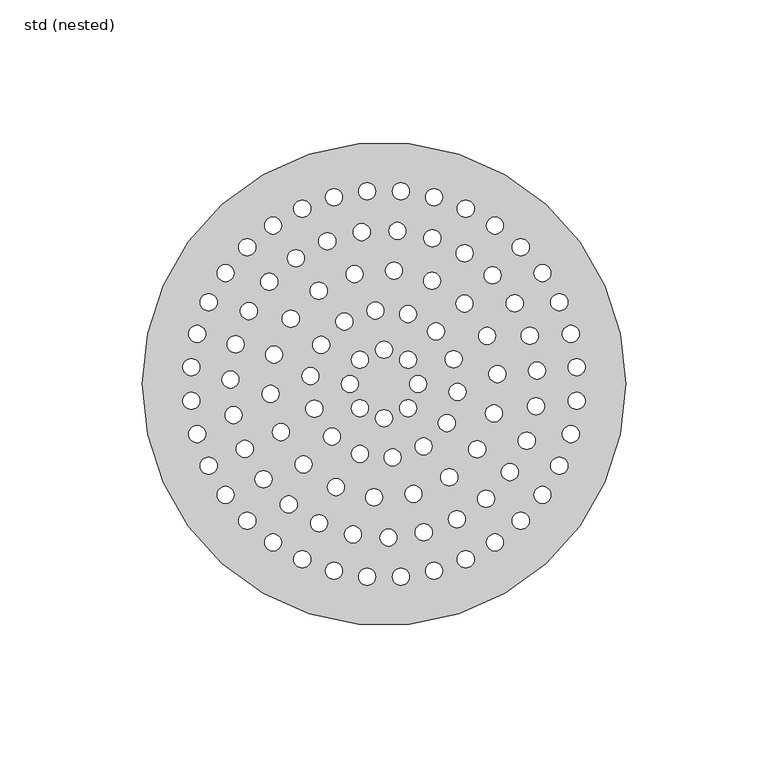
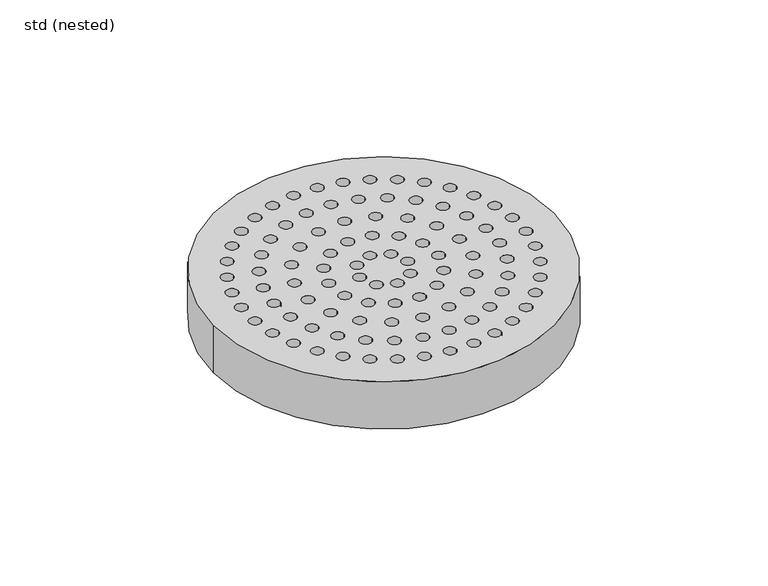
"""IFC4 building model written with IfcOpenShell, lengths in millimetres: sanitary terminal geometry, ZZZ_do not use_PF_ST_UN_round grating for vinyl top_ACO : std (nested)."""

from ifc_helpers import new_model, si_unit, point, frame, frame_2d, origin, origin_2d, place, context, project, spatial, circle_curve, trimmed, segment, composite_curve, outline, extrude, source, transform, mapped, element, save


def std_nested_0eeefa5e(model_context):
    return source(origin(), model_context, "Body", "SweptSolid", [
        extrude(outline(composite_curve([segment(trimmed(circle_curve(origin_2d(), 85.0), [point((-85.0, 0.0))], [point((85.0, 0.0))], False, "CARTESIAN"), True, "CONTINUOUS"), segment(trimmed(circle_curve(origin_2d(), 85.0), [point((85.0, 0.0))], [point((-85.0, 0.0))], False, "CARTESIAN"), True, "CONTINUOUS")], self_intersect=False), holes=[composite_curve([segment(trimmed(circle_curve(frame_2d((17.5996951, 65.6829562)), 3.0), [point((20.5996951, 65.6829562))], [point((14.5996951, 65.6829562))], True, "CARTESIAN"), True, "CONTINUOUS"), segment(trimmed(circle_curve(frame_2d((17.5996951, 65.6829562)), 3.0), [point((14.5996951, 65.6829562))], [point((20.5996951, 65.6829562))], True, "CARTESIAN"), True, "CONTINUOUS")], self_intersect=False), composite_curve([segment(trimmed(circle_curve(frame_2d((28.7380418, 61.6289295)), 3.0), [point((31.7380418, 61.6289295))], [point((25.7380418, 61.6289295))], True, "CARTESIAN"), True, "CONTINUOUS"), segment(trimmed(circle_curve(frame_2d((28.7380418, 61.6289295)), 3.0), [point((25.7380418, 61.6289295))], [point((31.7380418, 61.6289295))], True, "CARTESIAN"), True, "CONTINUOUS")], self_intersect=False), composite_curve([segment(trimmed(circle_curve(frame_2d((39.0031977, 55.702339)), 3.0), [point((42.0031977, 55.702339))], [point((36.0031977, 55.702339))], True, "CARTESIAN"), True, "CONTINUOUS"), segment(trimmed(circle_curve(frame_2d((39.0031977, 55.702339)), 3.0), [point((36.0031977, 55.702339))], [point((42.0031977, 55.702339))], True, "CARTESIAN"), True, "CONTINUOUS")], self_intersect=False), composite_curve([segment(trimmed(circle_curve(frame_2d((48.0832611, 48.0832611)), 3.0), [point((51.0832611, 48.0832611))], [point((45.0832611, 48.0832611))], True, "CARTESIAN"), True, "CONTINUOUS"), segment(trimmed(circle_curve(frame_2d((48.0832611, 48.0832611)), 3.0), [point((45.0832611, 48.0832611))], [point((51.0832611, 48.0832611))], True, "CARTESIAN"), True, "CONTINUOUS")], self_intersect=False), composite_curve([segment(trimmed(circle_curve(frame_2d((55.702339, 39.0031977)), 3.0), [point((58.702339, 39.0031977))], [point((52.702339, 39.0031977))], True, "CARTESIAN"), True, "CONTINUOUS"), segment(trimmed(circle_curve(frame_2d((55.702339, 39.0031977)), 3.0), [point((52.702339, 39.0031977))], [point((58.702339, 39.0031977))], True, "CARTESIAN"), True, "CONTINUOUS")], self_intersect=False), composite_curve([segment(trimmed(circle_curve(frame_2d((61.6289295, 28.7380418)), 3.0), [point((64.6289295, 28.7380418))], [point((58.6289295, 28.7380418))], True, "CARTESIAN"), True, "CONTINUOUS"), segment(trimmed(circle_curve(frame_2d((61.6289295, 28.7380418)), 3.0), [point((58.6289295, 28.7380418))], [point((64.6289295, 28.7380418))], True, "CARTESIAN"), True, "CONTINUOUS")], self_intersect=False), composite_curve([segment(trimmed(circle_curve(frame_2d((65.6829562, 17.5996951)), 3.0), [point((68.6829562, 17.5996951))], [point((62.6829562, 17.5996951))], True, "CARTESIAN"), True, "CONTINUOUS"), segment(trimmed(circle_curve(frame_2d((65.6829562, 17.5996951)), 3.0), [point((62.6829562, 17.5996951))], [point((68.6829562, 17.5996951))], True, "CARTESIAN"), True, "CONTINUOUS")], self_intersect=False), composite_curve([segment(trimmed(circle_curve(frame_2d((67.7412395, 5.9265905)), 3.0), [point((70.7412395, 5.9265905))], [point((64.7412395, 5.9265905))], True, "CARTESIAN"), True, "CONTINUOUS"), segment(trimmed(circle_curve(frame_2d((67.7412395, 5.9265905)), 3.0), [point((64.7412395, 5.9265905))], [point((70.7412395, 5.9265905))], True, "CARTESIAN"), True, "CONTINUOUS")], self_intersect=False), composite_curve([segment(trimmed(circle_curve(frame_2d((67.7412395, -5.9265905)), 3.0), [point((70.7412395, -5.9265905))], [point((64.7412395, -5.9265905))], True, "CARTESIAN"), True, "CONTINUOUS"), segment(trimmed(circle_curve(frame_2d((67.7412395, -5.9265905)), 3.0), [point((64.7412395, -5.9265905))], [point((70.7412395, -5.9265905))], True, "CARTESIAN"), True, "CONTINUOUS")], self_intersect=False), composite_curve([segment(trimmed(circle_curve(frame_2d((65.6829562, -17.5996951)), 3.0), [point((68.6829562, -17.5996951))], [point((62.6829562, -17.5996951))], True, "CARTESIAN"), True, "CONTINUOUS"), segment(trimmed(circle_curve(frame_2d((65.6829562, -17.5996951)), 3.0), [point((62.6829562, -17.5996951))], [point((68.6829562, -17.5996951))], True, "CARTESIAN"), True, "CONTINUOUS")], self_intersect=False), composite_curve([segment(trimmed(circle_curve(frame_2d((61.6289295, -28.7380418)), 3.0), [point((64.6289295, -28.7380418))], [point((58.6289295, -28.7380418))], True, "CARTESIAN"), True, "CONTINUOUS"), segment(trimmed(circle_curve(frame_2d((61.6289295, -28.7380418)), 3.0), [point((58.6289295, -28.7380418))], [point((64.6289295, -28.7380418))], True, "CARTESIAN"), True, "CONTINUOUS")], self_intersect=False), composite_curve([segment(trimmed(circle_curve(frame_2d((55.702339, -39.0031977)), 3.0), [point((58.702339, -39.0031977))], [point((52.702339, -39.0031977))], True, "CARTESIAN"), True, "CONTINUOUS"), segment(trimmed(circle_curve(frame_2d((55.702339, -39.0031977)), 3.0), [point((52.702339, -39.0031977))], [point((58.702339, -39.0031977))], True, "CARTESIAN"), True, "CONTINUOUS")], self_intersect=False), composite_curve([segment(trimmed(circle_curve(frame_2d((48.0832611, -48.0832611)), 3.0), [point((51.0832611, -48.0832611))], [point((45.0832611, -48.0832611))], True, "CARTESIAN"), True, "CONTINUOUS"), segment(trimmed(circle_curve(frame_2d((48.0832611, -48.0832611)), 3.0), [point((45.0832611, -48.0832611))], [point((51.0832611, -48.0832611))], True, "CARTESIAN"), True, "CONTINUOUS")], self_intersect=False), composite_curve([segment(trimmed(circle_curve(frame_2d((39.0031977, -55.702339)), 3.0), [point((42.0031977, -55.702339))], [point((36.0031977, -55.702339))], True, "CARTESIAN"), True, "CONTINUOUS"), segment(trimmed(circle_curve(frame_2d((39.0031977, -55.702339)), 3.0), [point((36.0031977, -55.702339))], [point((42.0031977, -55.702339))], True, "CARTESIAN"), True, "CONTINUOUS")], self_intersect=False), composite_curve([segment(trimmed(circle_curve(frame_2d((28.7380418, -61.6289295)), 3.0), [point((31.7380418, -61.6289295))], [point((25.7380418, -61.6289295))], True, "CARTESIAN"), True, "CONTINUOUS"), segment(trimmed(circle_curve(frame_2d((28.7380418, -61.6289295)), 3.0), [point((25.7380418, -61.6289295))], [point((31.7380418, -61.6289295))], True, "CARTESIAN"), True, "CONTINUOUS")], self_intersect=False), composite_curve([segment(trimmed(circle_curve(frame_2d((17.5996951, -65.6829562)), 3.0), [point((20.5996951, -65.6829562))], [point((14.5996951, -65.6829562))], True, "CARTESIAN"), True, "CONTINUOUS"), segment(trimmed(circle_curve(frame_2d((17.5996951, -65.6829562)), 3.0), [point((14.5996951, -65.6829562))], [point((20.5996951, -65.6829562))], True, "CARTESIAN"), True, "CONTINUOUS")], self_intersect=False), composite_curve([segment(trimmed(circle_curve(frame_2d((5.9265905, -67.7412395)), 3.0), [point((8.9265905, -67.7412395))], [point((2.9265905, -67.7412395))], True, "CARTESIAN"), True, "CONTINUOUS"), segment(trimmed(circle_curve(frame_2d((5.9265905, -67.7412395)), 3.0), [point((2.9265905, -67.7412395))], [point((8.9265905, -67.7412395))], True, "CARTESIAN"), True, "CONTINUOUS")], self_intersect=False), composite_curve([segment(trimmed(circle_curve(frame_2d((-5.9265905, -67.7412395)), 3.0), [point((-2.9265905, -67.7412395))], [point((-8.9265905, -67.7412395))], True, "CARTESIAN"), True, "CONTINUOUS"), segment(trimmed(circle_curve(frame_2d((-5.9265905, -67.7412395)), 3.0), [point((-8.9265905, -67.7412395))], [point((-2.9265905, -67.7412395))], True, "CARTESIAN"), True, "CONTINUOUS")], self_intersect=False), composite_curve([segment(trimmed(circle_curve(frame_2d((-17.5996951, -65.6829562)), 3.0), [point((-14.5996951, -65.6829562))], [point((-20.5996951, -65.6829562))], True, "CARTESIAN"), True, "CONTINUOUS"), segment(trimmed(circle_curve(frame_2d((-17.5996951, -65.6829562)), 3.0), [point((-20.5996951, -65.6829562))], [point((-14.5996951, -65.6829562))], True, "CARTESIAN"), True, "CONTINUOUS")], self_intersect=False), composite_curve([segment(trimmed(circle_curve(frame_2d((-28.7380418, -61.6289295)), 3.0), [point((-25.7380418, -61.6289295))], [point((-31.7380418, -61.6289295))], True, "CARTESIAN"), True, "CONTINUOUS"), segment(trimmed(circle_curve(frame_2d((-28.7380418, -61.6289295)), 3.0), [point((-31.7380418, -61.6289295))], [point((-25.7380418, -61.6289295))], True, "CARTESIAN"), True, "CONTINUOUS")], self_intersect=False), composite_curve([segment(trimmed(circle_curve(frame_2d((-39.0031977, -55.702339)), 3.0), [point((-36.0031977, -55.702339))], [point((-42.0031977, -55.702339))], True, "CARTESIAN"), True, "CONTINUOUS"), segment(trimmed(circle_curve(frame_2d((-39.0031977, -55.702339)), 3.0), [point((-42.0031977, -55.702339))], [point((-36.0031977, -55.702339))], True, "CARTESIAN"), True, "CONTINUOUS")], self_intersect=False), composite_curve([segment(trimmed(circle_curve(frame_2d((-48.0832611, -48.0832611)), 3.0), [point((-45.0832611, -48.0832611))], [point((-51.0832611, -48.0832611))], True, "CARTESIAN"), True, "CONTINUOUS"), segment(trimmed(circle_curve(frame_2d((-48.0832611, -48.0832611)), 3.0), [point((-51.0832611, -48.0832611))], [point((-45.0832611, -48.0832611))], True, "CARTESIAN"), True, "CONTINUOUS")], self_intersect=False), composite_curve([segment(trimmed(circle_curve(frame_2d((-55.702339, -39.0031977)), 3.0), [point((-52.702339, -39.0031977))], [point((-58.702339, -39.0031977))], True, "CARTESIAN"), True, "CONTINUOUS"), segment(trimmed(circle_curve(frame_2d((-55.702339, -39.0031977)), 3.0), [point((-58.702339, -39.0031977))], [point((-52.702339, -39.0031977))], True, "CARTESIAN"), True, "CONTINUOUS")], self_intersect=False), composite_curve([segment(trimmed(circle_curve(frame_2d((-61.6289295, -28.7380418)), 3.0), [point((-58.6289295, -28.7380418))], [point((-64.6289295, -28.7380418))], True, "CARTESIAN"), True, "CONTINUOUS"), segment(trimmed(circle_curve(frame_2d((-61.6289295, -28.7380418)), 3.0), [point((-64.6289295, -28.7380418))], [point((-58.6289295, -28.7380418))], True, "CARTESIAN"), True, "CONTINUOUS")], self_intersect=False), composite_curve([segment(trimmed(circle_curve(frame_2d((-65.6829562, -17.5996951)), 3.0), [point((-62.6829562, -17.5996951))], [point((-68.6829562, -17.5996951))], True, "CARTESIAN"), True, "CONTINUOUS"), segment(trimmed(circle_curve(frame_2d((-65.6829562, -17.5996951)), 3.0), [point((-68.6829562, -17.5996951))], [point((-62.6829562, -17.5996951))], True, "CARTESIAN"), True, "CONTINUOUS")], self_intersect=False), composite_curve([segment(trimmed(circle_curve(frame_2d((-67.7412395, -5.9265905)), 3.0), [point((-64.7412395, -5.9265905))], [point((-70.7412395, -5.9265905))], True, "CARTESIAN"), True, "CONTINUOUS"), segment(trimmed(circle_curve(frame_2d((-67.7412395, -5.9265905)), 3.0), [point((-70.7412395, -5.9265905))], [point((-64.7412395, -5.9265905))], True, "CARTESIAN"), True, "CONTINUOUS")], self_intersect=False), composite_curve([segment(trimmed(circle_curve(frame_2d((-67.7412395, 5.9265905)), 3.0), [point((-64.7412395, 5.9265905))], [point((-70.7412395, 5.9265905))], True, "CARTESIAN"), True, "CONTINUOUS"), segment(trimmed(circle_curve(frame_2d((-67.7412395, 5.9265905)), 3.0), [point((-70.7412395, 5.9265905))], [point((-64.7412395, 5.9265905))], True, "CARTESIAN"), True, "CONTINUOUS")], self_intersect=False), composite_curve([segment(trimmed(circle_curve(frame_2d((-65.6829562, 17.5996951)), 3.0), [point((-62.6829562, 17.5996951))], [point((-68.6829562, 17.5996951))], True, "CARTESIAN"), True, "CONTINUOUS"), segment(trimmed(circle_curve(frame_2d((-65.6829562, 17.5996951)), 3.0), [point((-68.6829562, 17.5996951))], [point((-62.6829562, 17.5996951))], True, "CARTESIAN"), True, "CONTINUOUS")], self_intersect=False), composite_curve([segment(trimmed(circle_curve(frame_2d((-61.6289295, 28.7380418)), 3.0), [point((-58.6289295, 28.7380418))], [point((-64.6289295, 28.7380418))], True, "CARTESIAN"), True, "CONTINUOUS"), segment(trimmed(circle_curve(frame_2d((-61.6289295, 28.7380418)), 3.0), [point((-64.6289295, 28.7380418))], [point((-58.6289295, 28.7380418))], True, "CARTESIAN"), True, "CONTINUOUS")], self_intersect=False), composite_curve([segment(trimmed(circle_curve(frame_2d((-55.702339, 39.0031977)), 3.0), [point((-52.702339, 39.0031977))], [point((-58.702339, 39.0031977))], True, "CARTESIAN"), True, "CONTINUOUS"), segment(trimmed(circle_curve(frame_2d((-55.702339, 39.0031977)), 3.0), [point((-58.702339, 39.0031977))], [point((-52.702339, 39.0031977))], True, "CARTESIAN"), True, "CONTINUOUS")], self_intersect=False), composite_curve([segment(trimmed(circle_curve(frame_2d((-48.0832611, 48.0832611)), 3.0), [point((-45.0832611, 48.0832611))], [point((-51.0832611, 48.0832611))], True, "CARTESIAN"), True, "CONTINUOUS"), segment(trimmed(circle_curve(frame_2d((-48.0832611, 48.0832611)), 3.0), [point((-51.0832611, 48.0832611))], [point((-45.0832611, 48.0832611))], True, "CARTESIAN"), True, "CONTINUOUS")], self_intersect=False), composite_curve([segment(trimmed(circle_curve(frame_2d((-39.0031977, 55.702339)), 3.0), [point((-36.0031977, 55.702339))], [point((-42.0031977, 55.702339))], True, "CARTESIAN"), True, "CONTINUOUS"), segment(trimmed(circle_curve(frame_2d((-39.0031977, 55.702339)), 3.0), [point((-42.0031977, 55.702339))], [point((-36.0031977, 55.702339))], True, "CARTESIAN"), True, "CONTINUOUS")], self_intersect=False), composite_curve([segment(trimmed(circle_curve(frame_2d((-28.7380418, 61.6289295)), 3.0), [point((-25.7380418, 61.6289295))], [point((-31.7380418, 61.6289295))], True, "CARTESIAN"), True, "CONTINUOUS"), segment(trimmed(circle_curve(frame_2d((-28.7380418, 61.6289295)), 3.0), [point((-31.7380418, 61.6289295))], [point((-25.7380418, 61.6289295))], True, "CARTESIAN"), True, "CONTINUOUS")], self_intersect=False), composite_curve([segment(trimmed(circle_curve(frame_2d((-17.5996951, 65.6829562)), 3.0), [point((-14.5996951, 65.6829562))], [point((-20.5996951, 65.6829562))], True, "CARTESIAN"), True, "CONTINUOUS"), segment(trimmed(circle_curve(frame_2d((-17.5996951, 65.6829562)), 3.0), [point((-20.5996951, 65.6829562))], [point((-14.5996951, 65.6829562))], True, "CARTESIAN"), True, "CONTINUOUS")], self_intersect=False), composite_curve([segment(trimmed(circle_curve(frame_2d((-5.9265905, 67.7412395)), 3.0), [point((-2.9265905, 67.7412395))], [point((-8.9265905, 67.7412395))], True, "CARTESIAN"), True, "CONTINUOUS"), segment(trimmed(circle_curve(frame_2d((-5.9265905, 67.7412395)), 3.0), [point((-8.9265905, 67.7412395))], [point((-2.9265905, 67.7412395))], True, "CARTESIAN"), True, "CONTINUOUS")], self_intersect=False), composite_curve([segment(trimmed(circle_curve(frame_2d((16.9854168, 51.2591028)), 3.0), [point((19.9854168, 51.2591028))], [point((13.9854168, 51.2591028))], True, "CARTESIAN"), True, "CONTINUOUS"), segment(trimmed(circle_curve(frame_2d((16.9854168, 51.2591028)), 3.0), [point((13.9854168, 51.2591028))], [point((19.9854168, 51.2591028))], True, "CARTESIAN"), True, "CONTINUOUS")], self_intersect=False), composite_curve([segment(trimmed(circle_curve(frame_2d((28.3487353, 45.9603003)), 3.0), [point((31.3487353, 45.9603003))], [point((25.3487353, 45.9603003))], True, "CARTESIAN"), True, "CONTINUOUS"), segment(trimmed(circle_curve(frame_2d((28.3487353, 45.9603003)), 3.0), [point((25.3487353, 45.9603003))], [point((31.3487353, 45.9603003))], True, "CARTESIAN"), True, "CONTINUOUS")], self_intersect=False), composite_curve([segment(trimmed(circle_curve(frame_2d((38.1837662, 38.1837662)), 3.0), [point((41.1837662, 38.1837662))], [point((35.1837662, 38.1837662))], True, "CARTESIAN"), True, "CONTINUOUS"), segment(trimmed(circle_curve(frame_2d((38.1837662, 38.1837662)), 3.0), [point((35.1837662, 38.1837662))], [point((41.1837662, 38.1837662))], True, "CARTESIAN"), True, "CONTINUOUS")], self_intersect=False), composite_curve([segment(trimmed(circle_curve(frame_2d((45.9603003, 28.3487353)), 3.0), [point((48.9603003, 28.3487353))], [point((42.9603003, 28.3487353))], True, "CARTESIAN"), True, "CONTINUOUS"), segment(trimmed(circle_curve(frame_2d((45.9603003, 28.3487353)), 3.0), [point((42.9603003, 28.3487353))], [point((48.9603003, 28.3487353))], True, "CARTESIAN"), True, "CONTINUOUS")], self_intersect=False), composite_curve([segment(trimmed(circle_curve(frame_2d((51.2591028, 16.9854168)), 3.0), [point((54.2591028, 16.9854168))], [point((48.2591028, 16.9854168))], True, "CARTESIAN"), True, "CONTINUOUS"), segment(trimmed(circle_curve(frame_2d((51.2591028, 16.9854168)), 3.0), [point((48.2591028, 16.9854168))], [point((54.2591028, 16.9854168))], True, "CARTESIAN"), True, "CONTINUOUS")], self_intersect=False), composite_curve([segment(trimmed(circle_curve(frame_2d((53.7945137, 4.7064101)), 3.0), [point((56.7945137, 4.7064101))], [point((50.7945137, 4.7064101))], True, "CARTESIAN"), True, "CONTINUOUS"), segment(trimmed(circle_curve(frame_2d((53.7945137, 4.7064101)), 3.0), [point((50.7945137, 4.7064101))], [point((56.7945137, 4.7064101))], True, "CARTESIAN"), True, "CONTINUOUS")], self_intersect=False), composite_curve([segment(trimmed(circle_curve(frame_2d((53.4298485, -7.8263204)), 3.0), [point((56.4298485, -7.8263204))], [point((50.4298485, -7.8263204))], True, "CARTESIAN"), True, "CONTINUOUS"), segment(trimmed(circle_curve(frame_2d((53.4298485, -7.8263204)), 3.0), [point((50.4298485, -7.8263204))], [point((56.4298485, -7.8263204))], True, "CARTESIAN"), True, "CONTINUOUS")], self_intersect=False), composite_curve([segment(trimmed(circle_curve(frame_2d((50.1847663, -19.937132)), 3.0), [point((53.1847663, -19.937132))], [point((47.1847663, -19.937132))], True, "CARTESIAN"), True, "CONTINUOUS"), segment(trimmed(circle_curve(frame_2d((50.1847663, -19.937132)), 3.0), [point((47.1847663, -19.937132))], [point((53.1847663, -19.937132))], True, "CARTESIAN"), True, "CONTINUOUS")], self_intersect=False), composite_curve([segment(trimmed(circle_curve(frame_2d((44.2342104, -30.9731276)), 3.0), [point((47.2342104, -30.9731276))], [point((41.2342104, -30.9731276))], True, "CARTESIAN"), True, "CONTINUOUS"), segment(trimmed(circle_curve(frame_2d((44.2342104, -30.9731276)), 3.0), [point((41.2342104, -30.9731276))], [point((47.2342104, -30.9731276))], True, "CARTESIAN"), True, "CONTINUOUS")], self_intersect=False), composite_curve([segment(trimmed(circle_curve(frame_2d((35.8989767, -40.3393538)), 3.0), [point((38.8989767, -40.3393538))], [point((32.8989767, -40.3393538))], True, "CARTESIAN"), True, "CONTINUOUS"), segment(trimmed(circle_curve(frame_2d((35.8989767, -40.3393538)), 3.0), [point((32.8989767, -40.3393538))], [point((38.8989767, -40.3393538))], True, "CARTESIAN"), True, "CONTINUOUS")], self_intersect=False), composite_curve([segment(trimmed(circle_curve(frame_2d((25.62842, -47.5308751)), 3.0), [point((28.62842, -47.5308751))], [point((22.62842, -47.5308751))], True, "CARTESIAN"), True, "CONTINUOUS"), segment(trimmed(circle_curve(frame_2d((25.62842, -47.5308751)), 3.0), [point((22.62842, -47.5308751))], [point((28.62842, -47.5308751))], True, "CARTESIAN"), True, "CONTINUOUS")], self_intersect=False), composite_curve([segment(trimmed(circle_curve(frame_2d((13.9762284, -52.1599946)), 3.0), [point((16.9762284, -52.1599946))], [point((10.9762284, -52.1599946))], True, "CARTESIAN"), True, "CONTINUOUS"), segment(trimmed(circle_curve(frame_2d((13.9762284, -52.1599946)), 3.0), [point((10.9762284, -52.1599946))], [point((16.9762284, -52.1599946))], True, "CARTESIAN"), True, "CONTINUOUS")], self_intersect=False), composite_curve([segment(trimmed(circle_curve(frame_2d((1.5705748, -53.9771553)), 3.0), [point((4.5705748, -53.9771553))], [point((-1.4294252, -53.9771553))], True, "CARTESIAN"), True, "CONTINUOUS"), segment(trimmed(circle_curve(frame_2d((1.5705748, -53.9771553)), 3.0), [point((-1.4294252, -53.9771553))], [point((4.5705748, -53.9771553))], True, "CARTESIAN"), True, "CONTINUOUS")], self_intersect=False), composite_curve([segment(trimmed(circle_curve(frame_2d((-10.9197489, -52.8843936)), 3.0), [point((-7.9197489, -52.8843936))], [point((-13.9197489, -52.8843936))], True, "CARTESIAN"), True, "CONTINUOUS"), segment(trimmed(circle_curve(frame_2d((-10.9197489, -52.8843936)), 3.0), [point((-13.9197489, -52.8843936))], [point((-7.9197489, -52.8843936))], True, "CARTESIAN"), True, "CONTINUOUS")], self_intersect=False), composite_curve([segment(trimmed(circle_curve(frame_2d((-22.8213861, -48.9406205)), 3.0), [point((-19.8213861, -48.9406205))], [point((-25.8213861, -48.9406205))], True, "CARTESIAN"), True, "CONTINUOUS"), segment(trimmed(circle_curve(frame_2d((-22.8213861, -48.9406205)), 3.0), [point((-25.8213861, -48.9406205))], [point((-19.8213861, -48.9406205))], True, "CARTESIAN"), True, "CONTINUOUS")], self_intersect=False), composite_curve([segment(trimmed(circle_curve(frame_2d((-33.4927165, -42.3584459)), 3.0), [point((-30.4927165, -42.3584459))], [point((-36.4927165, -42.3584459))], True, "CARTESIAN"), True, "CONTINUOUS"), segment(trimmed(circle_curve(frame_2d((-33.4927165, -42.3584459)), 3.0), [point((-36.4927165, -42.3584459))], [point((-30.4927165, -42.3584459))], True, "CARTESIAN"), True, "CONTINUOUS")], self_intersect=False), composite_curve([segment(trimmed(circle_curve(frame_2d((-42.3584459, -33.4927165)), 3.0), [point((-39.3584459, -33.4927165))], [point((-45.3584459, -33.4927165))], True, "CARTESIAN"), True, "CONTINUOUS"), segment(trimmed(circle_curve(frame_2d((-42.3584459, -33.4927165)), 3.0), [point((-45.3584459, -33.4927165))], [point((-39.3584459, -33.4927165))], True, "CARTESIAN"), True, "CONTINUOUS")], self_intersect=False), composite_curve([segment(trimmed(circle_curve(frame_2d((-48.9406205, -22.8213861)), 3.0), [point((-45.9406205, -22.8213861))], [point((-51.9406205, -22.8213861))], True, "CARTESIAN"), True, "CONTINUOUS"), segment(trimmed(circle_curve(frame_2d((-48.9406205, -22.8213861)), 3.0), [point((-51.9406205, -22.8213861))], [point((-45.9406205, -22.8213861))], True, "CARTESIAN"), True, "CONTINUOUS")], self_intersect=False), composite_curve([segment(trimmed(circle_curve(frame_2d((-52.8843936, -10.9197489)), 3.0), [point((-49.8843936, -10.9197489))], [point((-55.8843936, -10.9197489))], True, "CARTESIAN"), True, "CONTINUOUS"), segment(trimmed(circle_curve(frame_2d((-52.8843936, -10.9197489)), 3.0), [point((-55.8843936, -10.9197489))], [point((-49.8843936, -10.9197489))], True, "CARTESIAN"), True, "CONTINUOUS")], self_intersect=False), composite_curve([segment(trimmed(circle_curve(frame_2d((-53.9771553, 1.5705748)), 3.0), [point((-50.9771553, 1.5705748))], [point((-56.9771553, 1.5705748))], True, "CARTESIAN"), True, "CONTINUOUS"), segment(trimmed(circle_curve(frame_2d((-53.9771553, 1.5705748)), 3.0), [point((-56.9771553, 1.5705748))], [point((-50.9771553, 1.5705748))], True, "CARTESIAN"), True, "CONTINUOUS")], self_intersect=False), composite_curve([segment(trimmed(circle_curve(frame_2d((-52.1599946, 13.9762284)), 3.0), [point((-49.1599946, 13.9762284))], [point((-55.1599946, 13.9762284))], True, "CARTESIAN"), True, "CONTINUOUS"), segment(trimmed(circle_curve(frame_2d((-52.1599946, 13.9762284)), 3.0), [point((-55.1599946, 13.9762284))], [point((-49.1599946, 13.9762284))], True, "CARTESIAN"), True, "CONTINUOUS")], self_intersect=False), composite_curve([segment(trimmed(circle_curve(frame_2d((-47.5308751, 25.62842)), 3.0), [point((-44.5308751, 25.62842))], [point((-50.5308751, 25.62842))], True, "CARTESIAN"), True, "CONTINUOUS"), segment(trimmed(circle_curve(frame_2d((-47.5308751, 25.62842)), 3.0), [point((-50.5308751, 25.62842))], [point((-44.5308751, 25.62842))], True, "CARTESIAN"), True, "CONTINUOUS")], self_intersect=False), composite_curve([segment(trimmed(circle_curve(frame_2d((-40.3393538, 35.8989767)), 3.0), [point((-37.3393538, 35.8989767))], [point((-43.3393538, 35.8989767))], True, "CARTESIAN"), True, "CONTINUOUS"), segment(trimmed(circle_curve(frame_2d((-40.3393538, 35.8989767)), 3.0), [point((-43.3393538, 35.8989767))], [point((-37.3393538, 35.8989767))], True, "CARTESIAN"), True, "CONTINUOUS")], self_intersect=False), composite_curve([segment(trimmed(circle_curve(frame_2d((-30.9731276, 44.2342104)), 3.0), [point((-27.9731276, 44.2342104))], [point((-33.9731276, 44.2342104))], True, "CARTESIAN"), True, "CONTINUOUS"), segment(trimmed(circle_curve(frame_2d((-30.9731276, 44.2342104)), 3.0), [point((-33.9731276, 44.2342104))], [point((-27.9731276, 44.2342104))], True, "CARTESIAN"), True, "CONTINUOUS")], self_intersect=False), composite_curve([segment(trimmed(circle_curve(frame_2d((-19.937132, 50.1847663)), 3.0), [point((-16.937132, 50.1847663))], [point((-22.937132, 50.1847663))], True, "CARTESIAN"), True, "CONTINUOUS"), segment(trimmed(circle_curve(frame_2d((-19.937132, 50.1847663)), 3.0), [point((-22.937132, 50.1847663))], [point((-16.937132, 50.1847663))], True, "CARTESIAN"), True, "CONTINUOUS")], self_intersect=False), composite_curve([segment(trimmed(circle_curve(frame_2d((-7.8263204, 53.4298485)), 3.0), [point((-4.8263204, 53.4298485))], [point((-10.8263204, 53.4298485))], True, "CARTESIAN"), True, "CONTINUOUS"), segment(trimmed(circle_curve(frame_2d((-7.8263204, 53.4298485)), 3.0), [point((-10.8263204, 53.4298485))], [point((-4.8263204, 53.4298485))], True, "CARTESIAN"), True, "CONTINUOUS")], self_intersect=False), composite_curve([segment(trimmed(circle_curve(frame_2d((5.9265905, 67.7412395)), 3.0), [point((8.9265905, 67.7412395))], [point((2.9265905, 67.7412395))], True, "CARTESIAN"), True, "CONTINUOUS"), segment(trimmed(circle_curve(frame_2d((5.9265905, 67.7412395)), 3.0), [point((2.9265905, 67.7412395))], [point((8.9265905, 67.7412395))], True, "CARTESIAN"), True, "CONTINUOUS")], self_intersect=False), composite_curve([segment(trimmed(circle_curve(frame_2d((4.7064101, 53.7945137)), 3.0), [point((7.7064101, 53.7945137))], [point((1.7064101, 53.7945137))], True, "CARTESIAN"), True, "CONTINUOUS"), segment(trimmed(circle_curve(frame_2d((4.7064101, 53.7945137)), 3.0), [point((1.7064101, 53.7945137))], [point((7.7064101, 53.7945137))], True, "CARTESIAN"), True, "CONTINUOUS")], self_intersect=False), composite_curve([segment(trimmed(circle_curve(frame_2d((16.9047305, 36.2523115)), 3.0), [point((19.9047305, 36.2523115))], [point((13.9047305, 36.2523115))], True, "CARTESIAN"), True, "CONTINUOUS"), segment(trimmed(circle_curve(frame_2d((16.9047305, 36.2523115)), 3.0), [point((13.9047305, 36.2523115))], [point((19.9047305, 36.2523115))], True, "CARTESIAN"), True, "CONTINUOUS")], self_intersect=False), composite_curve([segment(trimmed(circle_curve(frame_2d((28.2842712, 28.2842712)), 3.0), [point((31.2842712, 28.2842712))], [point((25.2842712, 28.2842712))], True, "CARTESIAN"), True, "CONTINUOUS"), segment(trimmed(circle_curve(frame_2d((28.2842712, 28.2842712)), 3.0), [point((25.2842712, 28.2842712))], [point((31.2842712, 28.2842712))], True, "CARTESIAN"), True, "CONTINUOUS")], self_intersect=False), composite_curve([segment(trimmed(circle_curve(frame_2d((36.2523115, 16.9047305)), 3.0), [point((39.2523115, 16.9047305))], [point((33.2523115, 16.9047305))], True, "CARTESIAN"), True, "CONTINUOUS"), segment(trimmed(circle_curve(frame_2d((36.2523115, 16.9047305)), 3.0), [point((33.2523115, 16.9047305))], [point((39.2523115, 16.9047305))], True, "CARTESIAN"), True, "CONTINUOUS")], self_intersect=False), composite_curve([segment(trimmed(circle_curve(frame_2d((39.8477879, 3.4862297)), 3.0), [point((42.8477879, 3.4862297))], [point((36.8477879, 3.4862297))], True, "CARTESIAN"), True, "CONTINUOUS"), segment(trimmed(circle_curve(frame_2d((39.8477879, 3.4862297)), 3.0), [point((36.8477879, 3.4862297))], [point((42.8477879, 3.4862297))], True, "CARTESIAN"), True, "CONTINUOUS")], self_intersect=False), composite_curve([segment(trimmed(circle_curve(frame_2d((38.6370331, -10.3527618)), 3.0), [point((41.6370331, -10.3527618))], [point((35.6370331, -10.3527618))], True, "CARTESIAN"), True, "CONTINUOUS"), segment(trimmed(circle_curve(frame_2d((38.6370331, -10.3527618)), 3.0), [point((35.6370331, -10.3527618))], [point((41.6370331, -10.3527618))], True, "CARTESIAN"), True, "CONTINUOUS")], self_intersect=False), composite_curve([segment(trimmed(circle_curve(frame_2d((32.7660818, -22.9430575)), 3.0), [point((35.7660818, -22.9430575))], [point((29.7660818, -22.9430575))], True, "CARTESIAN"), True, "CONTINUOUS"), segment(trimmed(circle_curve(frame_2d((32.7660818, -22.9430575)), 3.0), [point((29.7660818, -22.9430575))], [point((35.7660818, -22.9430575))], True, "CARTESIAN"), True, "CONTINUOUS")], self_intersect=False), composite_curve([segment(trimmed(circle_curve(frame_2d((22.9430575, -32.7660818)), 3.0), [point((25.9430575, -32.7660818))], [point((19.9430575, -32.7660818))], True, "CARTESIAN"), True, "CONTINUOUS"), segment(trimmed(circle_curve(frame_2d((22.9430575, -32.7660818)), 3.0), [point((19.9430575, -32.7660818))], [point((25.9430575, -32.7660818))], True, "CARTESIAN"), True, "CONTINUOUS")], self_intersect=False), composite_curve([segment(trimmed(circle_curve(frame_2d((10.3527618, -38.6370331)), 3.0), [point((13.3527618, -38.6370331))], [point((7.3527618, -38.6370331))], True, "CARTESIAN"), True, "CONTINUOUS"), segment(trimmed(circle_curve(frame_2d((10.3527618, -38.6370331)), 3.0), [point((7.3527618, -38.6370331))], [point((13.3527618, -38.6370331))], True, "CARTESIAN"), True, "CONTINUOUS")], self_intersect=False), composite_curve([segment(trimmed(circle_curve(frame_2d((-3.4862297, -39.8477879)), 3.0), [point((-0.4862297, -39.8477879))], [point((-6.4862297, -39.8477879))], True, "CARTESIAN"), True, "CONTINUOUS"), segment(trimmed(circle_curve(frame_2d((-3.4862297, -39.8477879)), 3.0), [point((-6.4862297, -39.8477879))], [point((-0.4862297, -39.8477879))], True, "CARTESIAN"), True, "CONTINUOUS")], self_intersect=False), composite_curve([segment(trimmed(circle_curve(frame_2d((-16.9047305, -36.2523115)), 3.0), [point((-13.9047305, -36.2523115))], [point((-19.9047305, -36.2523115))], True, "CARTESIAN"), True, "CONTINUOUS"), segment(trimmed(circle_curve(frame_2d((-16.9047305, -36.2523115)), 3.0), [point((-19.9047305, -36.2523115))], [point((-13.9047305, -36.2523115))], True, "CARTESIAN"), True, "CONTINUOUS")], self_intersect=False), composite_curve([segment(trimmed(circle_curve(frame_2d((-28.2842712, -28.2842712)), 3.0), [point((-25.2842712, -28.2842712))], [point((-31.2842712, -28.2842712))], True, "CARTESIAN"), True, "CONTINUOUS"), segment(trimmed(circle_curve(frame_2d((-28.2842712, -28.2842712)), 3.0), [point((-31.2842712, -28.2842712))], [point((-25.2842712, -28.2842712))], True, "CARTESIAN"), True, "CONTINUOUS")], self_intersect=False), composite_curve([segment(trimmed(circle_curve(frame_2d((-36.2523115, -16.9047305)), 3.0), [point((-33.2523115, -16.9047305))], [point((-39.2523115, -16.9047305))], True, "CARTESIAN"), True, "CONTINUOUS"), segment(trimmed(circle_curve(frame_2d((-36.2523115, -16.9047305)), 3.0), [point((-39.2523115, -16.9047305))], [point((-33.2523115, -16.9047305))], True, "CARTESIAN"), True, "CONTINUOUS")], self_intersect=False), composite_curve([segment(trimmed(circle_curve(frame_2d((-39.8477879, -3.4862297)), 3.0), [point((-36.8477879, -3.4862297))], [point((-42.8477879, -3.4862297))], True, "CARTESIAN"), True, "CONTINUOUS"), segment(trimmed(circle_curve(frame_2d((-39.8477879, -3.4862297)), 3.0), [point((-42.8477879, -3.4862297))], [point((-36.8477879, -3.4862297))], True, "CARTESIAN"), True, "CONTINUOUS")], self_intersect=False), composite_curve([segment(trimmed(circle_curve(frame_2d((-38.6370331, 10.3527618)), 3.0), [point((-35.6370331, 10.3527618))], [point((-41.6370331, 10.3527618))], True, "CARTESIAN"), True, "CONTINUOUS"), segment(trimmed(circle_curve(frame_2d((-38.6370331, 10.3527618)), 3.0), [point((-41.6370331, 10.3527618))], [point((-35.6370331, 10.3527618))], True, "CARTESIAN"), True, "CONTINUOUS")], self_intersect=False), composite_curve([segment(trimmed(circle_curve(frame_2d((-32.7660818, 22.9430575)), 3.0), [point((-29.7660818, 22.9430575))], [point((-35.7660818, 22.9430575))], True, "CARTESIAN"), True, "CONTINUOUS"), segment(trimmed(circle_curve(frame_2d((-32.7660818, 22.9430575)), 3.0), [point((-35.7660818, 22.9430575))], [point((-29.7660818, 22.9430575))], True, "CARTESIAN"), True, "CONTINUOUS")], self_intersect=False), composite_curve([segment(trimmed(circle_curve(frame_2d((-22.9430575, 32.7660818)), 3.0), [point((-19.9430575, 32.7660818))], [point((-25.9430575, 32.7660818))], True, "CARTESIAN"), True, "CONTINUOUS"), segment(trimmed(circle_curve(frame_2d((-22.9430575, 32.7660818)), 3.0), [point((-25.9430575, 32.7660818))], [point((-19.9430575, 32.7660818))], True, "CARTESIAN"), True, "CONTINUOUS")], self_intersect=False), composite_curve([segment(trimmed(circle_curve(frame_2d((-10.3527618, 38.6370331)), 3.0), [point((-7.3527618, 38.6370331))], [point((-13.3527618, 38.6370331))], True, "CARTESIAN"), True, "CONTINUOUS"), segment(trimmed(circle_curve(frame_2d((-10.3527618, 38.6370331)), 3.0), [point((-13.3527618, 38.6370331))], [point((-7.3527618, 38.6370331))], True, "CARTESIAN"), True, "CONTINUOUS")], self_intersect=False), composite_curve([segment(trimmed(circle_curve(frame_2d((3.4862297, 39.8477879)), 3.0), [point((6.4862297, 39.8477879))], [point((0.4862297, 39.8477879))], True, "CARTESIAN"), True, "CONTINUOUS"), segment(trimmed(circle_curve(frame_2d((3.4862297, 39.8477879)), 3.0), [point((0.4862297, 39.8477879))], [point((6.4862297, 39.8477879))], True, "CARTESIAN"), True, "CONTINUOUS")], self_intersect=False), composite_curve([segment(trimmed(circle_curve(frame_2d((18.2928696, 18.4762259)), 3.0), [point((21.2928696, 18.4762259))], [point((15.2928696, 18.4762259))], True, "CARTESIAN"), True, "CONTINUOUS"), segment(trimmed(circle_curve(frame_2d((18.2928696, 18.4762259)), 3.0), [point((15.2928696, 18.4762259))], [point((21.2928696, 18.4762259))], True, "CARTESIAN"), True, "CONTINUOUS")], self_intersect=False), composite_curve([segment(trimmed(circle_curve(frame_2d((24.49784, 8.7095257)), 3.0), [point((27.49784, 8.7095257))], [point((21.49784, 8.7095257))], True, "CARTESIAN"), True, "CONTINUOUS"), segment(trimmed(circle_curve(frame_2d((24.49784, 8.7095257)), 3.0), [point((21.49784, 8.7095257))], [point((27.49784, 8.7095257))], True, "CARTESIAN"), True, "CONTINUOUS")], self_intersect=False), composite_curve([segment(trimmed(circle_curve(frame_2d((25.8507127, -2.7822029)), 3.0), [point((28.8507127, -2.7822029))], [point((22.8507127, -2.7822029))], True, "CARTESIAN"), True, "CONTINUOUS"), segment(trimmed(circle_curve(frame_2d((25.8507127, -2.7822029)), 3.0), [point((22.8507127, -2.7822029))], [point((28.8507127, -2.7822029))], True, "CARTESIAN"), True, "CONTINUOUS")], self_intersect=False), composite_curve([segment(trimmed(circle_curve(frame_2d((22.0835347, -13.7228821)), 3.0), [point((25.0835347, -13.7228821))], [point((19.0835347, -13.7228821))], True, "CARTESIAN"), True, "CONTINUOUS"), segment(trimmed(circle_curve(frame_2d((22.0835347, -13.7228821)), 3.0), [point((19.0835347, -13.7228821))], [point((25.0835347, -13.7228821))], True, "CARTESIAN"), True, "CONTINUOUS")], self_intersect=False), composite_curve([segment(trimmed(circle_curve(frame_2d((13.9424419, -21.9455762)), 3.0), [point((16.9424419, -21.9455762))], [point((10.9424419, -21.9455762))], True, "CARTESIAN"), True, "CONTINUOUS"), segment(trimmed(circle_curve(frame_2d((13.9424419, -21.9455762)), 3.0), [point((10.9424419, -21.9455762))], [point((16.9424419, -21.9455762))], True, "CARTESIAN"), True, "CONTINUOUS")], self_intersect=False), composite_curve([segment(trimmed(circle_curve(frame_2d((3.0398774, -25.8216797)), 3.0), [point((6.0398774, -25.8216797))], [point((0.0398774, -25.8216797))], True, "CARTESIAN"), True, "CONTINUOUS"), segment(trimmed(circle_curve(frame_2d((3.0398774, -25.8216797)), 3.0), [point((0.0398774, -25.8216797))], [point((6.0398774, -25.8216797))], True, "CARTESIAN"), True, "CONTINUOUS")], self_intersect=False), composite_curve([segment(trimmed(circle_curve(frame_2d((-8.464772, -24.583483)), 3.0), [point((-5.464772, -24.583483))], [point((-11.464772, -24.583483))], True, "CARTESIAN"), True, "CONTINUOUS"), segment(trimmed(circle_curve(frame_2d((-8.464772, -24.583483)), 3.0), [point((-11.464772, -24.583483))], [point((-5.464772, -24.583483))], True, "CARTESIAN"), True, "CONTINUOUS")], self_intersect=False), composite_curve([segment(trimmed(circle_curve(frame_2d((-18.2928696, -18.4762259)), 3.0), [point((-15.2928696, -18.4762259))], [point((-21.2928696, -18.4762259))], True, "CARTESIAN"), True, "CONTINUOUS"), segment(trimmed(circle_curve(frame_2d((-18.2928696, -18.4762259)), 3.0), [point((-21.2928696, -18.4762259))], [point((-15.2928696, -18.4762259))], True, "CARTESIAN"), True, "CONTINUOUS")], self_intersect=False), composite_curve([segment(trimmed(circle_curve(frame_2d((-24.49784, -8.7095257)), 3.0), [point((-21.49784, -8.7095257))], [point((-27.49784, -8.7095257))], True, "CARTESIAN"), True, "CONTINUOUS"), segment(trimmed(circle_curve(frame_2d((-24.49784, -8.7095257)), 3.0), [point((-27.49784, -8.7095257))], [point((-21.49784, -8.7095257))], True, "CARTESIAN"), True, "CONTINUOUS")], self_intersect=False), composite_curve([segment(trimmed(circle_curve(frame_2d((-25.8507127, 2.7822029)), 3.0), [point((-22.8507127, 2.7822029))], [point((-28.8507127, 2.7822029))], True, "CARTESIAN"), True, "CONTINUOUS"), segment(trimmed(circle_curve(frame_2d((-25.8507127, 2.7822029)), 3.0), [point((-28.8507127, 2.7822029))], [point((-22.8507127, 2.7822029))], True, "CARTESIAN"), True, "CONTINUOUS")], self_intersect=False), composite_curve([segment(trimmed(circle_curve(frame_2d((-22.0835347, 13.7228821)), 3.0), [point((-19.0835347, 13.7228821))], [point((-25.0835347, 13.7228821))], True, "CARTESIAN"), True, "CONTINUOUS"), segment(trimmed(circle_curve(frame_2d((-22.0835347, 13.7228821)), 3.0), [point((-25.0835347, 13.7228821))], [point((-19.0835347, 13.7228821))], True, "CARTESIAN"), True, "CONTINUOUS")], self_intersect=False), composite_curve([segment(trimmed(circle_curve(frame_2d((-13.9424419, 21.9455762)), 3.0), [point((-10.9424419, 21.9455762))], [point((-16.9424419, 21.9455762))], True, "CARTESIAN"), True, "CONTINUOUS"), segment(trimmed(circle_curve(frame_2d((-13.9424419, 21.9455762)), 3.0), [point((-16.9424419, 21.9455762))], [point((-10.9424419, 21.9455762))], True, "CARTESIAN"), True, "CONTINUOUS")], self_intersect=False), composite_curve([segment(trimmed(circle_curve(frame_2d((-3.0398774, 25.8216797)), 3.0), [point((-0.0398774, 25.8216797))], [point((-6.0398774, 25.8216797))], True, "CARTESIAN"), True, "CONTINUOUS"), segment(trimmed(circle_curve(frame_2d((-3.0398774, 25.8216797)), 3.0), [point((-6.0398774, 25.8216797))], [point((-0.0398774, 25.8216797))], True, "CARTESIAN"), True, "CONTINUOUS")], self_intersect=False), composite_curve([segment(trimmed(circle_curve(frame_2d((8.464772, 24.583483)), 3.0), [point((11.464772, 24.583483))], [point((5.464772, 24.583483))], True, "CARTESIAN"), True, "CONTINUOUS"), segment(trimmed(circle_curve(frame_2d((8.464772, 24.583483)), 3.0), [point((5.464772, 24.583483))], [point((11.464772, 24.583483))], True, "CARTESIAN"), True, "CONTINUOUS")], self_intersect=False), composite_curve([segment(trimmed(circle_curve(frame_2d((8.4852814, 8.4852814)), 3.0), [point((11.4852814, 8.4852814))], [point((5.4852814, 8.4852814))], True, "CARTESIAN"), True, "CONTINUOUS"), segment(trimmed(circle_curve(frame_2d((8.4852814, 8.4852814)), 3.0), [point((5.4852814, 8.4852814))], [point((11.4852814, 8.4852814))], True, "CARTESIAN"), True, "CONTINUOUS")], self_intersect=False), composite_curve([segment(trimmed(circle_curve(frame_2d((12.0, 0.0)), 3.0), [point((15.0, 0.0))], [point((9.0, 0.0))], True, "CARTESIAN"), True, "CONTINUOUS"), segment(trimmed(circle_curve(frame_2d((12.0, 0.0)), 3.0), [point((9.0, 0.0))], [point((15.0, 0.0))], True, "CARTESIAN"), True, "CONTINUOUS")], self_intersect=False), composite_curve([segment(trimmed(circle_curve(frame_2d((8.4852814, -8.4852814)), 3.0), [point((11.4852814, -8.4852814))], [point((5.4852814, -8.4852814))], True, "CARTESIAN"), True, "CONTINUOUS"), segment(trimmed(circle_curve(frame_2d((8.4852814, -8.4852814)), 3.0), [point((5.4852814, -8.4852814))], [point((11.4852814, -8.4852814))], True, "CARTESIAN"), True, "CONTINUOUS")], self_intersect=False), composite_curve([segment(trimmed(circle_curve(frame_2d((0.0, -12.0)), 3.0), [point((3.0, -12.0))], [point((-3.0, -12.0))], True, "CARTESIAN"), True, "CONTINUOUS"), segment(trimmed(circle_curve(frame_2d((0.0, -12.0)), 3.0), [point((-3.0, -12.0))], [point((3.0, -12.0))], True, "CARTESIAN"), True, "CONTINUOUS")], self_intersect=False), composite_curve([segment(trimmed(circle_curve(frame_2d((-8.4852814, -8.4852814)), 3.0), [point((-5.4852814, -8.4852814))], [point((-11.4852814, -8.4852814))], True, "CARTESIAN"), True, "CONTINUOUS"), segment(trimmed(circle_curve(frame_2d((-8.4852814, -8.4852814)), 3.0), [point((-11.4852814, -8.4852814))], [point((-5.4852814, -8.4852814))], True, "CARTESIAN"), True, "CONTINUOUS")], self_intersect=False), composite_curve([segment(trimmed(circle_curve(frame_2d((-12.0, 0.0)), 3.0), [point((-9.0, 0.0))], [point((-15.0, 0.0))], True, "CARTESIAN"), True, "CONTINUOUS"), segment(trimmed(circle_curve(frame_2d((-12.0, 0.0)), 3.0), [point((-15.0, 0.0))], [point((-9.0, 0.0))], True, "CARTESIAN"), True, "CONTINUOUS")], self_intersect=False), composite_curve([segment(trimmed(circle_curve(frame_2d((-8.4852814, 8.4852814)), 3.0), [point((-5.4852814, 8.4852814))], [point((-11.4852814, 8.4852814))], True, "CARTESIAN"), True, "CONTINUOUS"), segment(trimmed(circle_curve(frame_2d((-8.4852814, 8.4852814)), 3.0), [point((-11.4852814, 8.4852814))], [point((-5.4852814, 8.4852814))], True, "CARTESIAN"), True, "CONTINUOUS")], self_intersect=False), composite_curve([segment(trimmed(circle_curve(frame_2d((0.0, 12.0)), 3.0), [point((3.0, 12.0))], [point((-3.0, 12.0))], True, "CARTESIAN"), True, "CONTINUOUS"), segment(trimmed(circle_curve(frame_2d((0.0, 12.0)), 3.0), [point((-3.0, 12.0))], [point((3.0, 12.0))], True, "CARTESIAN"), True, "CONTINUOUS")], self_intersect=False)]), frame((0.0, 0.0, -25.0), z_axis=(0.0, 0.0, 1.0), x_axis=(1.0, 0.0, 0.0)), (0.0, 0.0, 1.0), 25.0),
    ])


if __name__ == "__main__":
    model = new_model("IFC4")
    model_context = context("Model", 3, world=origin())
    ifc_project = project(units=[si_unit("LENGTHUNIT", "METRE", prefix="MILLI")], contexts=[model_context])
    site = spatial("IfcSite", under=ifc_project)
    building = spatial("IfcBuilding", under=site)
    placement = place(None, origin())
    std_nested_shape = std_nested_0eeefa5e(model_context)
    element("IfcSanitaryTerminal", 1, ObjectType="ZZZ_do not use_PF_ST_UN_round grating for vinyl top_ACO : std (nested)", at=placement, inside=building, context=model_context, shape_type="MappedRepresentation", body=[
        mapped(std_nested_shape, transform((0.0, 0.0, 0.0), x_axis=(1.0, 0.0, 0.0), y_axis=(0.0, 1.0, 0.0), z_axis=(0.0, 0.0, 1.0))),
    ])
    save(model, "model.ifc")
